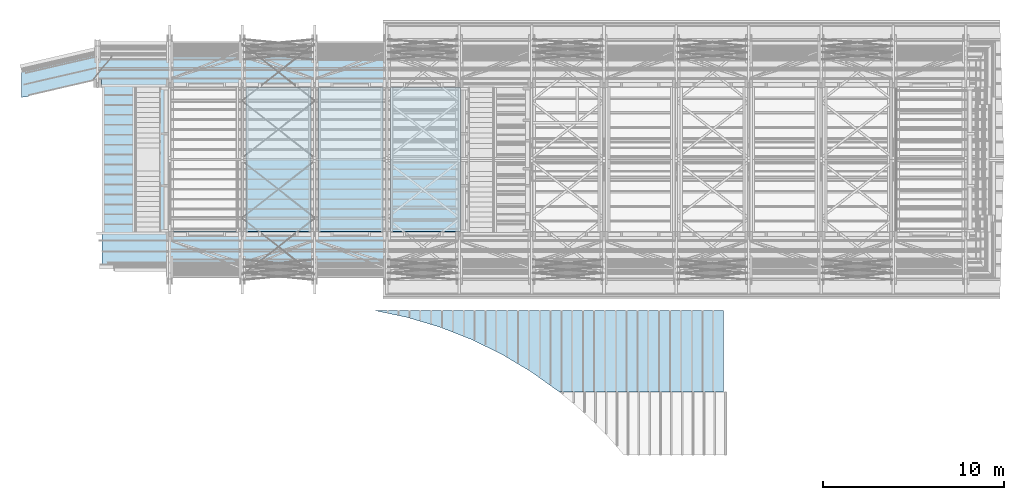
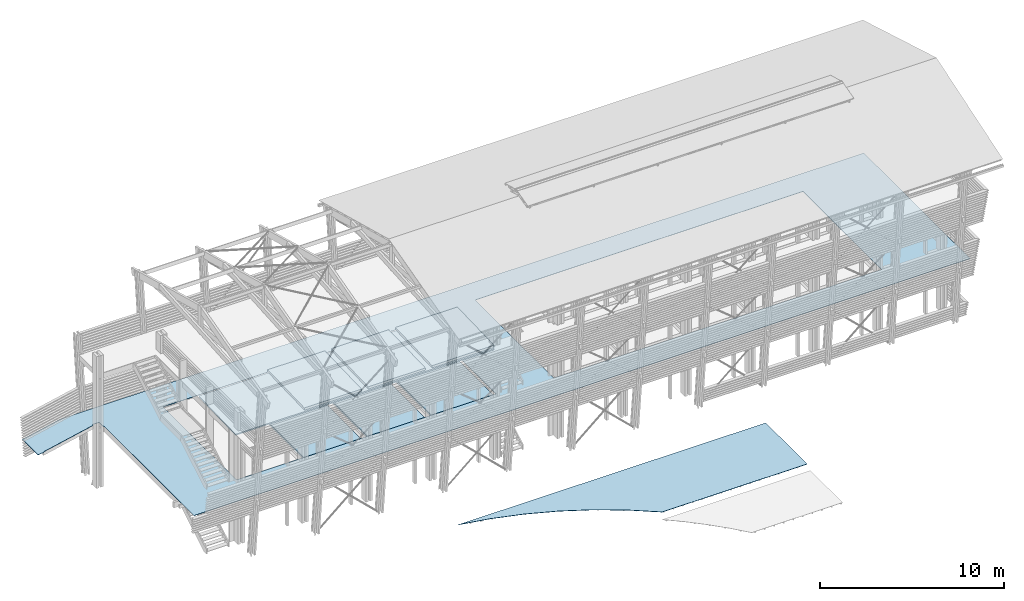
# One storey, part 31 of 48: 9 slabs.
"""IFC2X3 building model written with IfcOpenShell, lengths in metres."""

from ifc_helpers import new_model, si_unit, direction, frame, origin_with_axes, place, context, subcontext, project, spatial, faceted_brep, material, element, save


model = new_model("IFC2X3")

# Units and contexts
model_context = context("Model", 3, precision=1e-06, world=origin_with_axes(), true_north=direction((0.0, 1.0, 0.0)))
body_context = subcontext(model_context, "Body", "Model", "MODEL_VIEW")
ifc_project = project(units=[si_unit("LENGTHUNIT", "METRE"), si_unit("AREAUNIT", "SQUARE_METRE"), si_unit("VOLUMEUNIT", "CUBIC_METRE"), si_unit("PLANEANGLEUNIT", "RADIAN")], contexts=[model_context])

# Site, building, storey
site_placement = place(None, origin_with_axes())
site = spatial("IfcSite", under=ifc_project, at=site_placement, CompositionType="ELEMENT")
building_placement = place(site_placement, origin_with_axes())
building = spatial("IfcBuilding", under=site, at=building_placement, Name="Building 1", CompositionType="ELEMENT")
storey_placement = place(building_placement, origin_with_axes())
storey = spatial("IfcBuildingStorey", under=building, at=storey_placement, Name="Storey 1", CompositionType="ELEMENT", Elevation=0.0)

# Slabs
ifc_material_1 = material(Name="Moabi")
slab_1_placement = place(storey_placement, frame((56.089744, -199.7964204, -0.0605), z_axis=(0.0, 0.0, 1.0), x_axis=(-1.0, 0.0, 0.0)))
element("IfcSlab", 1, at=slab_1_placement, inside=storey, material=ifc_material_1, Name="platelage", PredefinedType="NOTDEFINED", context=body_context, shape_type="Brep", body=[
    faceted_brep([(19.3080138, -2.25, -0.0105), (17.4677299, -1.8622757, -0.0105), (19.3080138, -2.25, 0.0105), (17.4677299, -1.8622757, 0.0105), (15.6658021, -1.3237302, -0.0105), (15.6658021, -1.3237302, 0.0105), (13.9145684, -0.6380513, -0.0105), (13.9145684, -0.6380513, 0.0105), (12.2260198, 0.1900664, -0.0105), (12.2260198, 0.1900664, 0.0105), (10.611718, 1.1549523, -0.0105), (10.611718, 1.1549523, 0.0105), (9.0827165, 2.25, -0.0105), (9.0827165, 2.25, 0.0105), (0.0, 2.25, -0.0105), (0.0, 2.25, 0.0105), (0.0, -2.25, -0.0105), (0.0, -2.25, 0.0105)], [[[0, 1, 2]], [[2, 1, 3]], [[1, 4, 3]], [[3, 4, 5]], [[4, 6, 5]], [[5, 6, 7]], [[6, 8, 7]], [[7, 8, 9]], [[8, 10, 9]], [[9, 10, 11]], [[10, 12, 11]], [[11, 12, 13]], [[12, 14, 13]], [[13, 14, 15]], [[14, 16, 15]], [[15, 16, 17]], [[16, 0, 17]], [[17, 0, 2]], [[14, 12, 16]], [[16, 12, 10]], [[16, 10, 8]], [[8, 6, 16]], [[16, 6, 4]], [[16, 4, 1]], [[1, 0, 16]], [[2, 3, 17]], [[17, 3, 5]], [[17, 5, 7]], [[7, 9, 17]], [[17, 9, 11]], [[17, 11, 13]], [[13, 15, 17]]]),
])
ifc_material_2 = material(Name="Polystyrène expansé")
slab_2_placement = place(storey_placement, frame((25.3797437, -191.2088609, 7.3300057), z_axis=(0.0, -0.0299865, 0.9995503), x_axis=(1.0, 0.0, 0.0)))
element("IfcSlab", 2, at=slab_2_placement, inside=storey, material=ifc_material_2, Name="isolant sur CLT", PredefinedType="NOTDEFINED", context=body_context, shape_type="Brep", body=[
    faceted_brep([(16.18, -2.0004911, 0.04), (0.0, -2.0004911, 0.04), (0.0, -2.0028911, -0.04), (16.18, -2.0028911, -0.04), (16.18, 2.0004911, -0.04), (16.18, 2.0028911, 0.04), (0.0, 2.0028911, 0.04), (0.0, 2.0004911, -0.04)], [[[0, 1, 2, 3]], [[0, 3, 4, 5]], [[1, 0, 5, 6]], [[5, 4, 7, 6]], [[2, 1, 6, 7]], [[3, 2, 7, 4]]]),
])
ifc_material_3 = material(Name="Cryptoméria")
slab_3_placement = place(storey_placement, frame((39.6297437, -193.1896515, 4.145), z_axis=(0.0, 0.0, 1.0), x_axis=(0.0, 1.0, 0.0)))
element("IfcSlab", 3, at=slab_3_placement, inside=storey, material=ifc_material_3, Name="CLT", PredefinedType="NOTDEFINED", context=body_context, shape_type="Brep", body=[
    faceted_brep([(0.0, 1.93, 0.07), (0.0, -1.93, 0.07), (7.9631634, -1.93, 0.07), (7.9631634, 1.93, 0.07), (7.9631634, -1.93, -0.07), (7.9631634, 1.93, -0.07), (0.0, -1.93, -0.07), (0.0, 1.93, -0.07)], [[[0, 1, 2, 3]], [[2, 4, 5, 3]], [[6, 7, 5, 4]], [[7, 0, 3, 5]], [[6, 1, 0, 7]], [[1, 6, 4, 2]]]),
])
ifc_material_4 = material(Name="Ipé")
slab_4_placement = place(storey_placement, frame((70.3816389, -189.2080698, 4.2595), z_axis=(0.0, 0.0, 1.0), x_axis=(-1.0, 0.0, 0.0)))
element("IfcSlab", 4, at=slab_4_placement, inside=storey, material=ifc_material_4, Name="platelage", PredefinedType="NOTDEFINED", context=body_context, shape_type="Brep", body=[
    faceted_brep([(44.9418952, -3.9815817, 0.0105), (44.9418952, 3.9815817, 0.0105), (44.9418952, 3.9815817, -0.0105), (44.9418952, -3.9815817, -0.0105), (28.6818952, -3.9815817, 0.0105), (28.6818952, -3.9815817, -0.0105), (28.6818952, 3.9815817, 0.0105), (28.6818952, 3.9815817, -0.0105), (4.6818952, 4.2615817, 0.0105), (4.6818952, -4.2615817, 0.0105), (4.6818952, -4.2615817, -0.0105), (4.6818952, 4.2615817, -0.0105), (25.2218952, 4.2615817, 0.0105), (25.2218952, 4.2615817, -0.0105), (25.2218952, -4.2615817, 0.0105), (25.2218952, -4.2615817, -0.0105), (52.6929184, -3.4894301, -0.0105), (52.6956657, -3.5306383, -0.0105), (52.6956657, -3.5306383, 0.0105), (52.6929184, -3.4894301, 0.0105), (48.6818952, -4.4415817, -0.0105), (48.6818952, -3.9948548, -0.0105), (48.6818952, -3.9948548, 0.0105), (48.6818952, -4.4415817, 0.0105), (49.0611153, -4.4415817, -0.0105), (49.0611153, -4.4415817, 0.0105), (49.1018952, -4.4321669, -0.0105), (49.1018952, -4.4321669, 0.0105), (49.1018952, -4.3603256, -0.0105), (49.1018952, -4.3603256, 0.0105), (48.6318952, -4.0011552, 0.0105), (48.6318952, 5.7643806, 0.0105), (0.0, 5.7643806, 0.0105), (0.0, -5.7643806, 0.0105), (50.3809589, -5.7643806, 0.0105), (53.0919529, -5.1384983, 0.0105), (53.0919529, -3.4391482, 0.0105), (48.6318952, -4.0011552, -0.0105), (53.0919529, -3.4391482, -0.0105), (53.0919529, -5.1384983, -0.0105), (50.3809589, -5.7643806, -0.0105), (0.0, -5.7643806, -0.0105), (0.0, 5.7643806, -0.0105), (48.6318952, 5.7643806, -0.0105)], [[[0, 1, 2, 3]], [[4, 0, 3, 5]], [[6, 4, 5, 7]], [[1, 6, 7, 2]], [[8, 9, 10, 11]], [[12, 8, 11, 13]], [[14, 12, 13, 15]], [[9, 14, 15, 10]], [[16, 17, 18, 19]], [[20, 21, 22, 23]], [[24, 20, 23, 25]], [[26, 24, 25, 27]], [[28, 26, 27, 29]], [[17, 28, 29, 18]], [[19, 18, 29, 27, 25, 23, 22, 30, 31, 32, 33, 34, 35, 36], [4, 6, 1, 0], [12, 14, 9, 8]], [[22, 21, 37, 30]], [[16, 19, 36, 38]], [[17, 16, 38, 39, 40, 41, 42, 43, 37, 21, 20, 24, 26, 28], [7, 5, 3, 2], [15, 13, 11, 10]], [[38, 36, 35, 39]], [[31, 43, 42, 32]], [[34, 40, 39, 35]], [[41, 40, 34, 33]], [[42, 41, 33, 32]], [[30, 37, 43, 31]]]),
])
slab_5_placement = place(storey_placement, frame((35.4897437, -193.1919004, 7.4554977), z_axis=(0.0, -0.0299865, 0.9995503), x_axis=(0.0, 0.9995503, 0.0299865)))
element("IfcSlab", 5, at=slab_5_placement, inside=storey, material=ifc_material_3, Name="CLT", PredefinedType="NOTDEFINED", context=body_context, shape_type="Brep", body=[
    faceted_brep([(0.0, -1.79, -0.075), (0.0, 1.79, -0.075), (3.983391, 1.79, -0.075), (3.983391, -1.79, -0.075), (0.0045, 1.79, 0.075), (3.987891, 1.79, 0.075), (0.0045, -1.79, 0.075), (3.987891, -1.79, 0.075)], [[[0, 1, 2, 3]], [[2, 1, 4, 5]], [[1, 0, 6, 4]], [[0, 3, 7, 6]], [[4, 6, 7, 5]], [[3, 2, 5, 7]]]),
])
slab_6_placement = place(storey_placement, frame((39.6397437, -193.1919004, 7.4554977), z_axis=(0.0, -0.0299865, 0.9995503), x_axis=(0.0, 0.9995503, 0.0299865)))
element("IfcSlab", 6, at=slab_6_placement, inside=storey, material=ifc_material_3, Name="CLT", PredefinedType="NOTDEFINED", context=body_context, shape_type="Brep", body=[
    faceted_brep([(0.0, -1.94, -0.075), (0.0, 1.94, -0.075), (3.983391, 1.94, -0.075), (3.983391, -1.94, -0.075), (0.0045, 1.94, 0.075), (3.987891, 1.94, 0.075), (0.0045, -1.94, 0.075), (3.987891, -1.94, 0.075)], [[[0, 1, 2, 3]], [[2, 1, 4, 5]], [[1, 0, 6, 4]], [[0, 3, 7, 6]], [[4, 6, 7, 5]], [[3, 2, 5, 7]]]),
])
for number, where, z_axis, x_axis, name in (
    (7, (31.4897437, -193.1896515, 4.145), (0.0, 0.0, 1.0), (0.0, 1.0, 0.0), "CLT"),
    (8, (35.4897437, -193.1896515, 4.145), (0.0, 0.0, 1.0), (0.0, 1.0, 0.0), "CLT"),
):
    element("IfcSlab", number, at=place(storey_placement, frame(where, z_axis=z_axis, x_axis=x_axis)), inside=storey, material=ifc_material_3, Name=name, PredefinedType="NOTDEFINED", context=body_context, shape_type="Brep", body=[
        faceted_brep([(0.0, -1.79, -0.07), (0.0, -1.79, 0.07), (0.0, 1.79, 0.07), (0.0, 1.79, -0.07), (7.9631634, -1.79, 0.07), (7.9631634, 1.79, 0.07), (7.9631634, -1.79, -0.07), (7.9631634, 1.79, -0.07)], [[[0, 1, 2, 3]], [[2, 1, 4, 5]], [[1, 0, 6, 4]], [[3, 2, 5, 7]], [[4, 6, 7, 5]], [[0, 3, 7, 6]]]),
    ])
slab_7_placement = place(storey_placement, frame((31.4897437, -193.1919004, 7.4554977), z_axis=(0.0, -0.0299865, 0.9995503), x_axis=(0.0, 0.9995503, 0.0299865)))
element("IfcSlab", 9, at=slab_7_placement, inside=storey, material=ifc_material_3, Name="CLT", PredefinedType="NOTDEFINED", context=body_context, shape_type="Brep", body=[
    faceted_brep([(0.0, -1.79, -0.075), (0.0, 1.79, -0.075), (3.983391, 1.79, -0.075), (3.983391, -1.79, -0.075), (0.0045, 1.79, 0.075), (3.987891, 1.79, 0.075), (0.0045, -1.79, 0.075), (3.987891, -1.79, 0.075)], [[[0, 1, 2, 3]], [[2, 1, 4, 5]], [[1, 0, 6, 4]], [[0, 3, 7, 6]], [[4, 6, 7, 5]], [[3, 2, 5, 7]]]),
])

save(model, "model.ifc")
